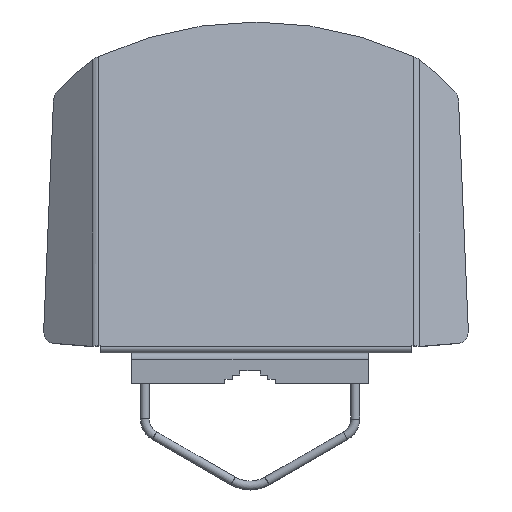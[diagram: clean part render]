
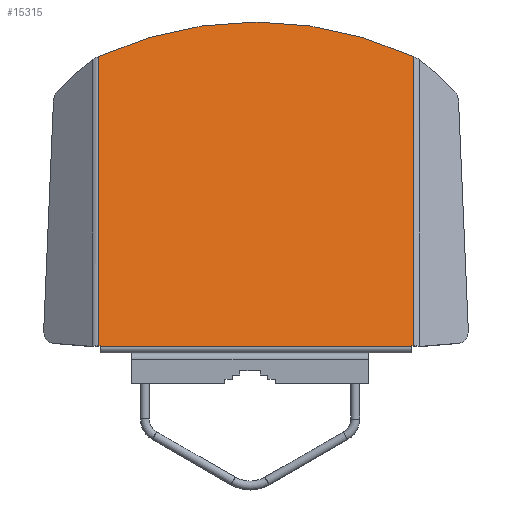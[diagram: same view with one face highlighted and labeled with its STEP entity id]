
A CAD part, front view. The second image highlights one B-rep face of the part: STEP entity #15315.
In plain terms, the highlighted planar face has unit normal (0, -0.985, 0.174).
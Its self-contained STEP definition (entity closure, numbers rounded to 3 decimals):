
#15315=ADVANCED_FACE('',(#62458),#62460,.F.);
#62458=FACE_BOUND('',#62459,.T.);
#62459=EDGE_LOOP('',(#70712,#70713,#70714,#70715,#70716,#70717,#70718,#70719));
#62460=PLANE('',#62461);
#62461=AXIS2_PLACEMENT_3D('',#62462,#62463,#62464);
#62462=CARTESIAN_POINT('',(4.,-122.656,3.215));
#62463=DIRECTION('',(0.,0.985,-0.174));
#62464=DIRECTION('',(-1.,0.,0.));
#70712=ORIENTED_EDGE('',*,*,#74872,.F.);
#70713=ORIENTED_EDGE('',*,*,#74852,.F.);
#70714=ORIENTED_EDGE('',*,*,#74854,.F.);
#70715=ORIENTED_EDGE('',*,*,#74873,.T.);
#70716=ORIENTED_EDGE('',*,*,#74860,.F.);
#70717=ORIENTED_EDGE('',*,*,#74874,.F.);
#70718=ORIENTED_EDGE('',*,*,#74866,.F.);
#70719=ORIENTED_EDGE('',*,*,#74868,.F.);
#74852=EDGE_CURVE('',#81382,#81380,#81384,.T.);
#74854=EDGE_CURVE('',#81385,#81382,#81387,.T.);
#74860=EDGE_CURVE('',#81395,#81393,#81397,.T.);
#74866=EDGE_CURVE('',#81405,#81403,#81407,.T.);
#74868=EDGE_CURVE('',#81408,#81405,#81410,.T.);
#74872=EDGE_CURVE('',#81380,#81408,#81416,.T.);
#74873=EDGE_CURVE('',#81385,#81393,#81417,.T.);
#74874=EDGE_CURVE('',#81403,#81395,#81418,.T.);
#81380=VERTEX_POINT('',#122521);
#81382=VERTEX_POINT('',#122525);
#81384=LINE('',#122529,#122530);
#81385=VERTEX_POINT('',#122532);
#81387=LINE('',#122536,#122537);
#81393=VERTEX_POINT('',#122557);
#81395=VERTEX_POINT('',#122561);
#81397=CIRCLE('',#122565,250.);
#81403=VERTEX_POINT('',#122587);
#81405=VERTEX_POINT('',#122591);
#81407=LINE('',#122595,#122596);
#81408=VERTEX_POINT('',#122598);
#81410=LINE('',#122602,#122603);
#81416=LINE('',#122618,#122619);
#81417=LINE('',#122621,#122622);
#81418=LINE('',#122624,#122625);
#122521=CARTESIAN_POINT('',(109.,-122.763,2.608));
#122525=CARTESIAN_POINT('',(109.,-122.656,3.215));
#122529=CARTESIAN_POINT('',(109.,-122.656,3.215));
#122530=VECTOR('',#122531,1.);
#122531=DIRECTION('',(0.,-0.174,-0.985));
#122532=CARTESIAN_POINT('',(110.18,-122.656,3.215));
#122536=CARTESIAN_POINT('',(110.18,-122.656,3.215));
#122537=VECTOR('',#122538,1.);
#122538=DIRECTION('',(-1.,0.,0.));
#122557=CARTESIAN_POINT('',(110.18,-88.216,198.533));
#122561=CARTESIAN_POINT('',(-102.18,-88.216,198.533));
#122565=AXIS2_PLACEMENT_3D('',#122566,#122567,#122568);
#122566=CARTESIAN_POINT('',(4.,-127.518,-24.36));
#122567=DIRECTION('',(0.,0.985,-0.174));
#122568=DIRECTION('',(-0.425,0.157,0.892));
#122587=CARTESIAN_POINT('',(-102.18,-122.656,3.215));
#122591=CARTESIAN_POINT('',(-101.,-122.656,3.215));
#122595=CARTESIAN_POINT('',(-101.,-122.656,3.215));
#122596=VECTOR('',#122597,1.);
#122597=DIRECTION('',(-1.,0.,0.));
#122598=CARTESIAN_POINT('',(-101.,-122.763,2.608));
#122602=CARTESIAN_POINT('',(-101.,-122.763,2.608));
#122603=VECTOR('',#122604,1.);
#122604=DIRECTION('',(0.,0.174,0.985));
#122618=CARTESIAN_POINT('',(109.,-122.763,2.608));
#122619=VECTOR('',#122620,1.);
#122620=DIRECTION('',(-1.,0.,0.));
#122621=CARTESIAN_POINT('',(110.18,-122.656,3.215));
#122622=VECTOR('',#122623,1.);
#122623=DIRECTION('',(0.,0.174,0.985));
#122624=CARTESIAN_POINT('',(-102.18,-122.656,3.215));
#122625=VECTOR('',#122626,1.);
#122626=DIRECTION('',(0.,0.174,0.985));
